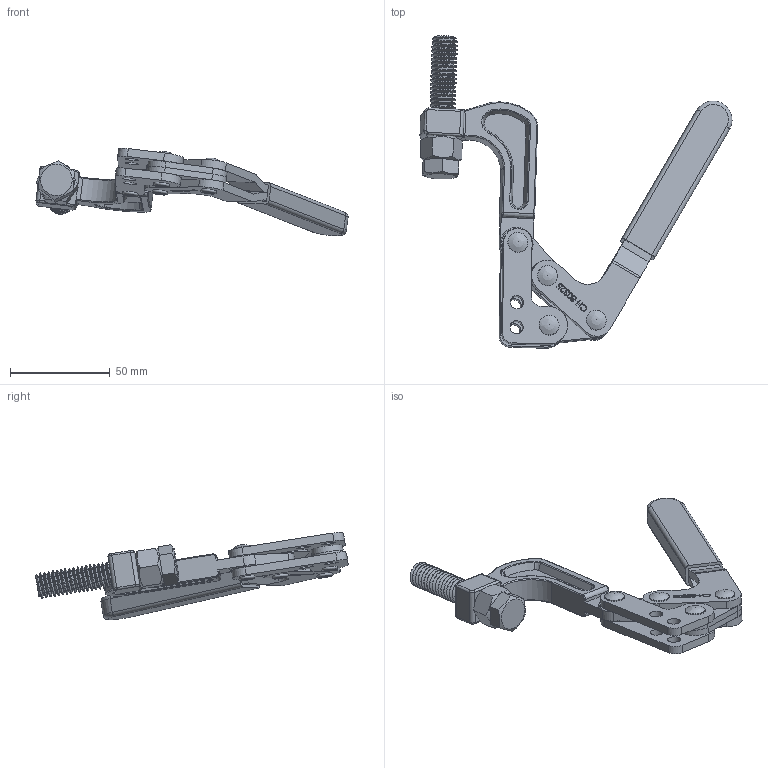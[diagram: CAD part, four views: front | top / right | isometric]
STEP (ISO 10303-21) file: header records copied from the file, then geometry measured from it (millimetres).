
FILE_DESCRIPTION(/* description */ ('STEP AP203'),/* implementation_level */ '2;1');
FILE_NAME(/* name */ 'E:\SERWER_ZAPAS\F clamp\CH-80325\CH-80325_OTWARTY.stp',/* time_stamp */ '2019-02-01T10:54:28+01:00',/* author */ ('Admin'),/* organization */ ('Î¢ÈíÖÐ¹ú'),/* preprocessor_version */ 'ST-DEVELOPER v17.2',/* originating_system */ 'Autodesk Inventor 2019',/* authorisation */ '');
FILE_SCHEMA (('AUTOMOTIVE_DESIGN { 1 0 10303 214 3 1 1 }'));
Length unit declared in the file: millimetre
Products named in the file (9): CH-80325_OTWARTY; 1-2-12X2 1-2_Ä¬ÈÏ; 80325-01 STRAIGHT BASE_Ä¬ÈÏ; 80325-05_Ä¬ÈÏ; 80379-02 BAR_Ä¬ÈÏ; 1-2 NUT_Ä¬ÈÏ; 80379-06; 80379-04 CONNECTING-PLATE_Ä¬ÈÏ; 80325-03 HANDLE_Ä¬ÈÏ
Assembly tree (12 placements, depth 2):
  CH-80325_OTWARTY
    80379-06  x4
    1-2-12X2 1-2_Ä¬ÈÏ
    80325-01 STRAIGHT BASE_Ä¬ÈÏ
    80325-05_Ä¬ÈÏ
    80379-02 BAR_Ä¬ÈÏ
    1-2 NUT_Ä¬ÈÏ
    80379-04 CONNECTING-PLATE_Ä¬ÈÏ  x2
    80325-03 HANDLE_Ä¬ÈÏ
Bounding box: 156.26 x 156.54 x 43.82 mm (x, y, z)
Volume: 69177.3 mm3; surface area: 48967 mm2
Topology: 14 solids, 14 shells, 699 faces, 1919 edges, 1277 vertices
Faces by surface type: plane 243, bspline 217, cylinder 176, torus 39, cone 24
Full cylindrical faces by diameter (mm): 0.829 x1, 0.94 x1, 6.4 x18, 6.7 x4, 9.826 x27, 10 x4, 10.5 x4, 10.7 x4, 12.7 x27, 13.6 x6
Entity records: 37725 total; most frequent: CARTESIAN_POINT 21928, ORIENTED_EDGE 3656, DIRECTION 2490, EDGE_CURVE 1828, VERTEX_POINT 1213, LINE 874, VECTOR 874, AXIS2_PLACEMENT_3D 808
